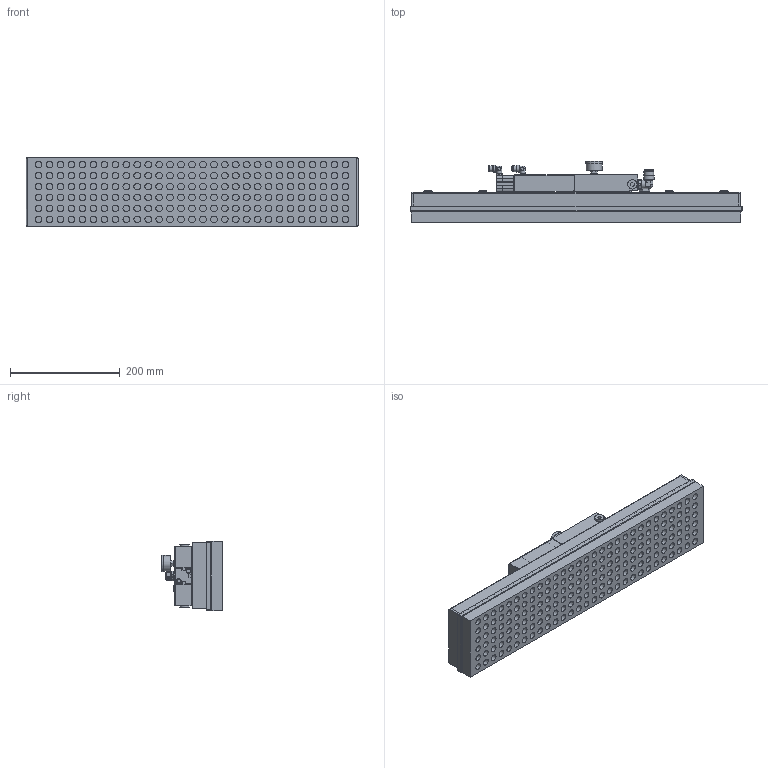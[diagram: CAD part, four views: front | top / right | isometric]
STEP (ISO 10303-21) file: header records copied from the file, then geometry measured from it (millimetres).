
FILE_DESCRIPTION (( 'STEP AP203' ), '1' );
FILE_NAME ('3-9-23144.STEP', '2014-03-12T09:59:29', ( '' ), ( '' ), 'SwSTEP 2.0', 'SolidWorks 2014', '' );
FILE_SCHEMA (( 'CONFIG_CONTROL_DESIGN' ));
Length unit declared in the file: millimetre
Products named in the file (1): 3-9-23144
Bounding box: 606 x 112.6 x 126 mm (x, y, z)
Volume: 4378869.3 mm3; surface area: 504223.7 mm2
Topology: 1 solids, 1 shells, 1299 faces, 3082 edges, 2034 vertices
Faces by surface type: plane 766, cylinder 433, cone 65, bspline 32, sphere 3
Full cylindrical faces by diameter (mm): 4 x2, 6 x2, 6.5 x2, 6.8 x8, 7.8 x2, 8 x1, 8.5 x2, 9 x6, 9.2 x2, 9.77 x1, 10.7 x3, 11 x2, 12 x174, 12.7 x2, 14.8 x12, 15 x7, 15.4 x4, 16.8 x1, 17 x10, 17.7 x1, 18 x2, 19.5 x1, 27 x1, 29 x1, 30 x1
Entity records: 41037 total; most frequent: CARTESIAN_POINT 13042, DIRECTION 5912, ORIENTED_EDGE 5102, EDGE_CURVE 2551, AXIS2_PLACEMENT_3D 2231, EDGE_LOOP 1874, VERTEX_POINT 1809, FACE_OUTER_BOUND 1572
